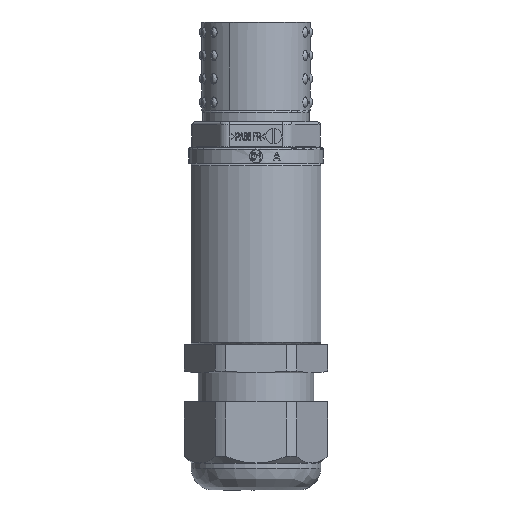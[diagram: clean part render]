
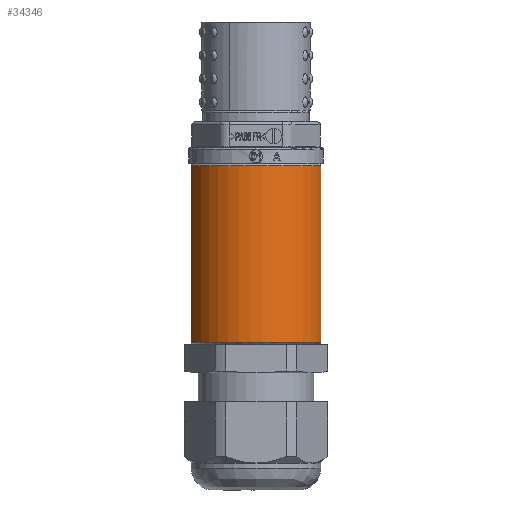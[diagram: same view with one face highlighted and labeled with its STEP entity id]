
A CAD part, front view. The second image highlights one B-rep face of the part: STEP entity #34346.
In plain terms, the highlighted cylindrical face has radius 13 mm (diameter 26 mm), a partial arc.
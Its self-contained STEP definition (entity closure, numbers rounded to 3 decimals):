
#3747 = CARTESIAN_POINT ( 'NONE',  ( 0.055, 0.259, -41.778 ) ) ;
#4798 = FACE_OUTER_BOUND ( 'NONE', #20361, .T. ) ;
#5545 = CARTESIAN_POINT ( 'NONE',  ( -12.445, -3.312, -7.778 ) ) ;
#7190 = DIRECTION ( 'NONE',  ( 0., 0., -1. ) ) ;
#8003 = CARTESIAN_POINT ( 'NONE',  ( -12.445, -3.312, -0.119 ) ) ;
#9526 = ORIENTED_EDGE ( 'NONE', *, *, #26074, .T. ) ;
#10631 = CARTESIAN_POINT ( 'NONE',  ( -12.445, -3.312, -41.778 ) ) ;
#10846 = ORIENTED_EDGE ( 'NONE', *, *, #24701, .T. ) ;
#12671 = DIRECTION ( 'NONE',  ( 0., 0., -1. ) ) ;
#12805 = DIRECTION ( 'NONE',  ( 0., 0., -1. ) ) ;
#14659 = CARTESIAN_POINT ( 'NONE',  ( 0.055, 0.259, -7.778 ) ) ;
#15911 = VECTOR ( 'NONE', #12671, 1000. ) ;
#17016 = VERTEX_POINT ( 'NONE', #5545 ) ;
#18426 = VERTEX_POINT ( 'NONE', #18816 ) ;
#18816 = CARTESIAN_POINT ( 'NONE',  ( 12.555, -3.312, -41.778 ) ) ;
#19002 = CARTESIAN_POINT ( 'NONE',  ( 12.555, -3.312, -0.119 ) ) ;
#19475 = EDGE_CURVE ( 'NONE', #23974, #18426, #27639, .T. ) ;
#19640 = CYLINDRICAL_SURFACE ( 'NONE', #37346, 13. ) ;
#20361 = EDGE_LOOP ( 'NONE', ( #35270, #10846, #9526, #28628 ) ) ;
#23573 = DIRECTION ( 'NONE',  ( 1., 0., 0. ) ) ;
#23974 = VERTEX_POINT ( 'NONE', #10631 ) ;
#24701 = EDGE_CURVE ( 'NONE', #35114, #17016, #31984, .T. ) ;
#24713 = DIRECTION ( 'NONE',  ( 1., 0., 0. ) ) ;
#25028 = AXIS2_PLACEMENT_3D ( 'NONE', #14659, #38432, #23573 ) ;
#25777 = CARTESIAN_POINT ( 'NONE',  ( 0.055, 0.259, -7.278 ) ) ;
#26074 = EDGE_CURVE ( 'NONE', #17016, #23974, #37893, .T. ) ;
#27639 = CIRCLE ( 'NONE', #28269, 13. ) ;
#28269 = AXIS2_PLACEMENT_3D ( 'NONE', #3747, #34427, #24713 ) ;
#28628 = ORIENTED_EDGE ( 'NONE', *, *, #19475, .T. ) ;
#30477 = EDGE_CURVE ( 'NONE', #35114, #18426, #33665, .T. ) ;
#31819 = VECTOR ( 'NONE', #12805, 1000. ) ;
#31908 = DIRECTION ( 'NONE',  ( -1., 0., 0. ) ) ;
#31984 = CIRCLE ( 'NONE', #25028, 13. ) ;
#33665 = LINE ( 'NONE', #19002, #15911 ) ;
#34346 = ADVANCED_FACE ( 'NONE', ( #4798 ), #19640, .T. ) ;
#34427 = DIRECTION ( 'NONE',  ( 0., 0., 1. ) ) ;
#35114 = VERTEX_POINT ( 'NONE', #35770 ) ;
#35270 = ORIENTED_EDGE ( 'NONE', *, *, #30477, .F. ) ;
#35770 = CARTESIAN_POINT ( 'NONE',  ( 12.555, -3.312, -7.778 ) ) ;
#37346 = AXIS2_PLACEMENT_3D ( 'NONE', #25777, #7190, #31908 ) ;
#37893 = LINE ( 'NONE', #8003, #31819 ) ;
#38432 = DIRECTION ( 'NONE',  ( 0., 0., -1. ) ) ;
